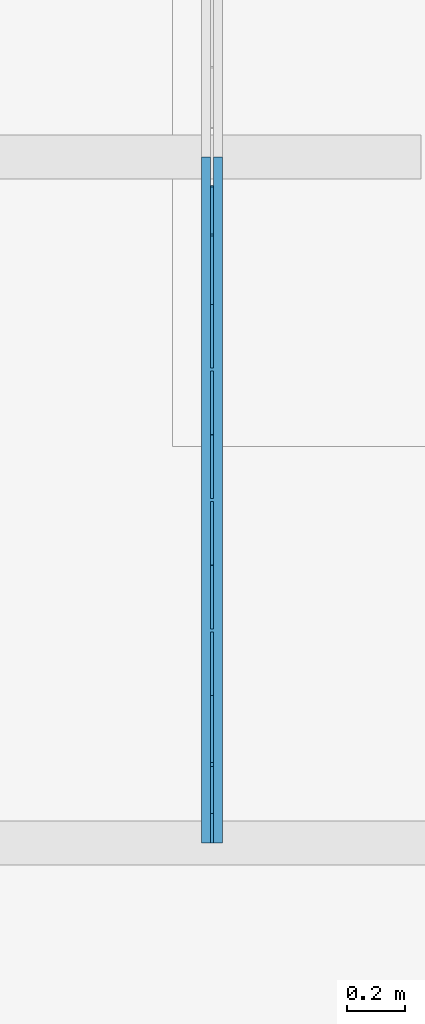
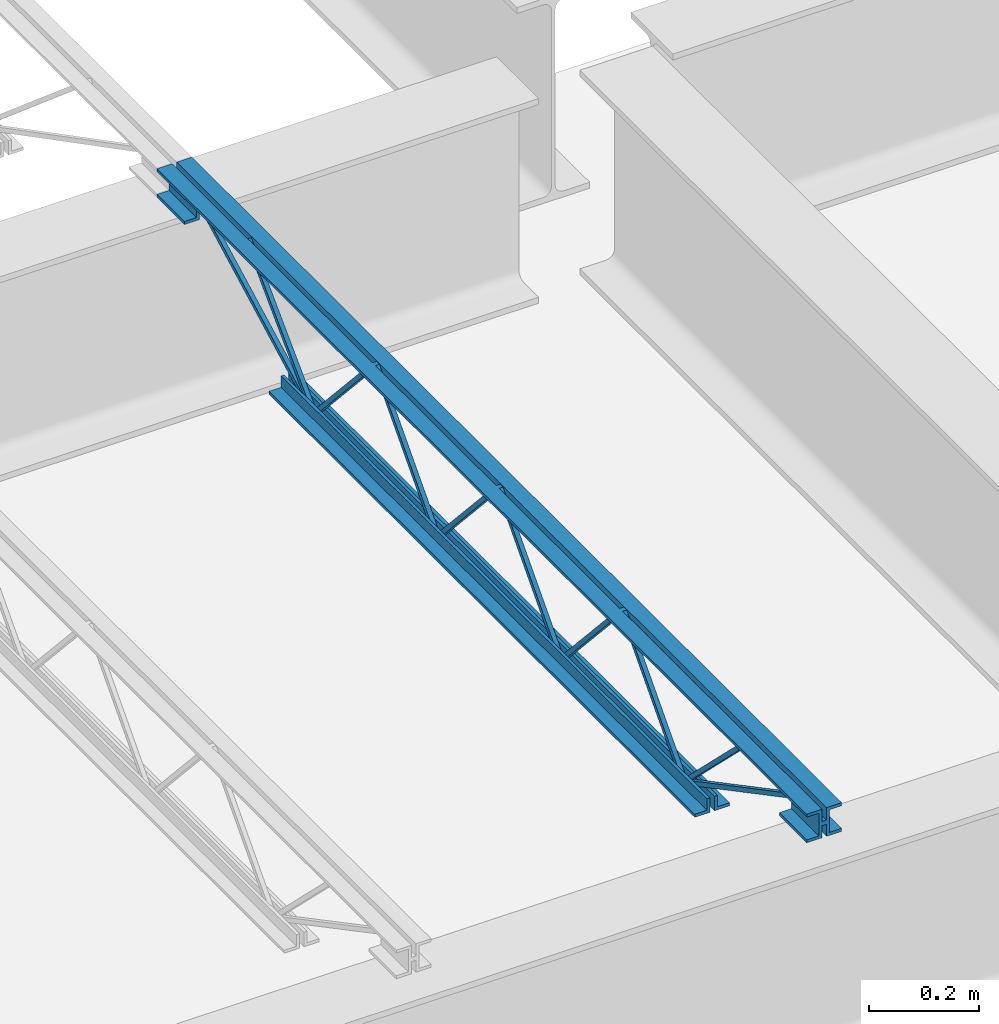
# One storey, part 59 of 75: 1 beam.
"""IFC2X3 building model written with IfcOpenShell, lengths in metres."""

from ifc_helpers import new_model, entity, si_unit, converted_unit, frame, origin, place, context, project, spatial, face_set, surface_model, element, save


model = new_model("IFC2X3")

# Units and contexts
model_context = context("Model", 3, precision=1e-09, world=origin())
plan_context = context("Plan", 3, precision=1e-09, world=origin())
ifc_project = project(units=[si_unit("LENGTHUNIT", "METRE"), si_unit("AREAUNIT", "SQUARE_METRE"), si_unit("VOLUMEUNIT", "CUBIC_METRE"), converted_unit("PLANEANGLEUNIT", "DEGREE", entity("IfcRatioMeasure", 0.01745329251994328), si_unit("PLANEANGLEUNIT", "RADIAN"), dimensions=[0, 0, 0, 0, 0, 0, 0]), si_unit("TIMEUNIT", "SECOND")], contexts=[model_context, plan_context])

# Site, building, storey
site_placement = place(None, origin())
site = spatial("IfcSite", under=ifc_project, at=site_placement, Name="Default", CompositionType="ELEMENT")
building_placement = place(site_placement, origin())
building = spatial("IfcBuilding", under=site, at=building_placement, CompositionType="ELEMENT")
storey_placement = place(building_placement, origin())
storey = spatial("IfcBuildingStorey", under=building, at=storey_placement, Name="First Floor", CompositionType="ELEMENT", Elevation=-3.531500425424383e-13)

# Beam
beam_placement = place(storey_placement, frame((-15.78006250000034, 42.41251390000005, 4.214000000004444)))
element("IfcBeam", 1, at=beam_placement, inside=storey, Name="M_K-Series Bar Joist-Rod Web:10K1:10K1", ObjectType="M_K-Series Bar Joist-Rod Web:10K1", context=model_context, shape_type="SurfaceModel", body=[
    surface_model("IfcFaceBasedSurfaceModel", [(0.04149999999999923, 0.9583333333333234, 0.01110000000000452), (0.03200000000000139, 0.9583333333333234, 0.01110000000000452), (0.03200000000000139, 0.9583333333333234, 0.001600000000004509), (0.04149999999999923, 0.9583333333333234, 0.001600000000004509), (0.03199999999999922, 0.9594035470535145, 0.01110000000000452), (0.04149999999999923, 0.9594035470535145, 0.01110000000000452), (0.03200000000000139, 0.9636131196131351, 0.001600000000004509), (0.03200000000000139, 1.182429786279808, 0.2429000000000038), (0.03200000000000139, 1.184570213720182, 0.2429000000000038), (0.03200000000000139, 1.403386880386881, 0.001600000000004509), (0.03200000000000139, 1.408666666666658, 0.001600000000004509), (0.03200000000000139, 1.408666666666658, 0.01110000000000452), (0.03200000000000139, 1.40759645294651, 0.01110000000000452), (0.03200000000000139, 1.188779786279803, 0.2524000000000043), (0.03200000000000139, 1.178220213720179, 0.2524000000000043), (0.0415000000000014, 0.9636131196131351, 0.001600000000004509), (0.04149999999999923, 1.1824297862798, 0.2429000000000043), (0.04149999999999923, 1.184570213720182, 0.2429000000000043), (0.04149999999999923, 1.403386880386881, 0.001600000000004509), (0.04149999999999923, 1.408666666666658, 0.001600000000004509), (0.04149999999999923, 1.408666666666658, 0.01110000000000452), (0.04149999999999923, 1.40759645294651, 0.01110000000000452), (0.04149999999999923, 1.188779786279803, 0.2524000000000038), (0.04149999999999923, 1.178220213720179, 0.2524000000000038), (0.04149999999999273, 1.40866666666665, 0.0110999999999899), (0.03199999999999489, 1.40866666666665, 0.0110999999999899), (0.03199999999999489, 1.40866666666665, 0.001599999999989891), (0.04149999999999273, 1.40866666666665, 0.001599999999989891), (0.03199999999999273, 1.409736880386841, 0.0110999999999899), (0.04149999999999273, 1.409736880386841, 0.0110999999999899), (0.03199999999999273, 1.413946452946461, 0.001599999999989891), (0.03199999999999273, 1.632763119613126, 0.2428999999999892), (0.03199999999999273, 1.6349035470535, 0.2428999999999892), (0.03199999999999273, 1.853720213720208, 0.001599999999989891), (0.03199999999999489, 1.858999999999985, 0.001599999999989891), (0.03199999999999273, 1.858999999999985, 0.0110999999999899), (0.03199999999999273, 1.857929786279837, 0.0110999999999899), (0.03199999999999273, 1.639113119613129, 0.2523999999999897), (0.03199999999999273, 1.628553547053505, 0.2523999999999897), (0.04149999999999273, 1.413946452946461, 0.001599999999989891), (0.04149999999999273, 1.632763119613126, 0.2428999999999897), (0.04149999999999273, 1.634903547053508, 0.2428999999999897), (0.04149999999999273, 1.853720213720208, 0.001599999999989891), (0.04149999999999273, 1.858999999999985, 0.001599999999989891), (0.04149999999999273, 1.858999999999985, 0.0110999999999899), (0.04149999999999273, 1.857929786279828, 0.0110999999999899), (0.04149999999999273, 1.639113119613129, 0.2523999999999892), (0.04149999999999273, 1.628553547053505, 0.2523999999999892), (0.04149999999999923, 0.5080000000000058, 0.01110000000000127), (0.03200000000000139, 0.5080000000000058, 0.01110000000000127), (0.03200000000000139, 0.5080000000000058, 0.001600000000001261), (0.04149999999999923, 0.5080000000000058, 0.001600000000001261), (0.03199999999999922, 0.5090702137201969, 0.01110000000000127), (0.04149999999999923, 0.5090702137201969, 0.01110000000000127), (0.03200000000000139, 0.5132797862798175, 0.001600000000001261), (0.03200000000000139, 0.7320964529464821, 0.2429000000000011), (0.03200000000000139, 0.7342368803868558, 0.2429000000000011), (0.03200000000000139, 0.9530535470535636, 0.001600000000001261), (0.03200000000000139, 0.9583333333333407, 0.001600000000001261), (0.03200000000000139, 0.9583333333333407, 0.01110000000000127), (0.03200000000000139, 0.9572631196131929, 0.01110000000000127), (0.03200000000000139, 0.738446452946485, 0.2524000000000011), (0.03200000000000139, 0.7278868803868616, 0.2524000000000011), (0.0415000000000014, 0.5132797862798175, 0.001600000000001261), (0.04149999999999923, 0.7320964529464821, 0.2429000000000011), (0.04149999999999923, 0.7342368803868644, 0.2429000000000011), (0.04149999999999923, 0.9530535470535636, 0.001600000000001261), (0.04149999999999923, 0.9583333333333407, 0.001600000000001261), (0.04149999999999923, 0.9583333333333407, 0.01110000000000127), (0.04149999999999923, 0.9572631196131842, 0.01110000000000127), (0.04149999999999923, 0.738446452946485, 0.2524000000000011), (0.04149999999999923, 0.7278868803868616, 0.2524000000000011), (0.03199999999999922, 2.366999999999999, 0.2539999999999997), (0.0, 2.366999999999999, 0.2539999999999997), (0.0, 2.366999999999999, 0.2474999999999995), (0.02549999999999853, 2.366999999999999, 0.2474999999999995), (0.02549999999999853, 2.366999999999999, 0.2219999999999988), (0.03199999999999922, 2.366999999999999, 0.2219999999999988), (0.04149999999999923, 2.366999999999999, 0.2539999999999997), (0.04149999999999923, 2.366999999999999, 0.2219999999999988), (0.04799999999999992, 2.366999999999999, 0.2219999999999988), (0.04799999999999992, 2.366999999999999, 0.2474999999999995), (0.07349999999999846, 2.366999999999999, 0.2474999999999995), (0.07349999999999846, 2.366999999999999, 0.2539999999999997), (0.03199999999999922, 0.0, 0.2539999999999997), (0.0, 0.0, 0.2539999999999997), (0.0, 0.0, 0.2474999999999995), (0.02549999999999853, 0.0, 0.2474999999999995), (0.02549999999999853, 0.0, 0.2219999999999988), (0.03199999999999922, 0.0, 0.2219999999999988), (0.04149999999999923, 0.0, 0.2539999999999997), (0.04149999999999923, 0.0, 0.2219999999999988), (0.04799999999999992, 0.0, 0.2219999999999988), (0.04799999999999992, 0.0, 0.2474999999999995), (0.07349999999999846, 0.0, 0.2474999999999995), (0.07349999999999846, 0.0, 0.2539999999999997), (0.04149999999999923, 0.09999999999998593, 0.1904999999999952), (0.07349999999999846, 0.09999999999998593, 0.1904999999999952), (0.07349999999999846, 0.09999999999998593, 0.1969999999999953), (0.04799999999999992, 0.09999999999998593, 0.1969999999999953), (0.04799999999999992, 0.09999999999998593, 0.2219999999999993), (0.04149999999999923, 0.09999999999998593, 0.2219999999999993), (0.0, 0.09999999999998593, 0.1904999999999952), (0.03199999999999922, 0.09999999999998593, 0.1904999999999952), (0.03199999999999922, 0.09999999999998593, 0.2219999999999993), (0.02549999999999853, 0.09999999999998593, 0.2219999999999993), (0.02549999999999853, 0.09999999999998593, 0.1969999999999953), (0.0, 0.09999999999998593, 0.1969999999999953), (0.04149999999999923, 0.0, 0.1904999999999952), (0.07349999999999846, 0.0, 0.1904999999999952), (0.07349999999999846, 0.0, 0.1969999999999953), (0.04799999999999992, 0.0, 0.1969999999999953), (0.04799999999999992, 0.0, 0.2219999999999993), (0.04149999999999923, 0.0, 0.2219999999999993), (0.0, 0.0, 0.1904999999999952), (0.03199999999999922, 0.0, 0.1904999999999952), (0.03199999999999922, 0.0, 0.2219999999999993), (0.02549999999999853, 0.0, 0.2219999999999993), (0.02549999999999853, 0.0, 0.1969999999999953), (0.0, 0.0, 0.1969999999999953), (0.03199999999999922, 2.366999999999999, 0.1904999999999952), (0.03199999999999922, 2.366999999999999, 0.2219999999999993), (0.0255000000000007, 2.366999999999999, 0.2219999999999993), (0.0255000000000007, 2.366999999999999, 0.1969999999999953), (0.0, 2.366999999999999, 0.1969999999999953), (0.0, 2.366999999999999, 0.1904999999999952), (0.04149999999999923, 2.366999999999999, 0.1904999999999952), (0.07350000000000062, 2.366999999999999, 0.1904999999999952), (0.07350000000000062, 2.366999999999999, 0.1969999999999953), (0.04799999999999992, 2.366999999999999, 0.1969999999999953), (0.04799999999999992, 2.366999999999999, 0.2219999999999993), (0.04149999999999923, 2.366999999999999, 0.2219999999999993), (0.03199999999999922, 2.266999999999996, 0.1904999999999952), (0.03199999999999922, 2.266999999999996, 0.2219999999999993), (0.0255000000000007, 2.266999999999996, 0.2219999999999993), (0.0255000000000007, 2.266999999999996, 0.1969999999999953), (0.0, 2.266999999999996, 0.1969999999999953), (0.0, 2.266999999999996, 0.1904999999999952), (0.04149999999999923, 2.266999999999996, 0.1904999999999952), (0.07350000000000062, 2.266999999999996, 0.1904999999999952), (0.07350000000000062, 2.266999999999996, 0.1969999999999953), (0.04799999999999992, 2.266999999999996, 0.1969999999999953), (0.04799999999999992, 2.266999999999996, 0.2219999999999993), (0.04149999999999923, 2.266999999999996, 0.2219999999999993), (0.03199999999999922, 1.959000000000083, 0.0), (0.03199999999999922, 1.959000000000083, 0.03199999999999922), (0.02549999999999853, 1.959000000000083, 0.03199999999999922), (0.02549999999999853, 1.959000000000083, 0.006500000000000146), (0.0, 1.959000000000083, 0.006500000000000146), (0.0, 1.959000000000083, 0.0), (0.04149999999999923, 1.959000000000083, 0.0), (0.07349999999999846, 1.959000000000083, 0.0), (0.07349999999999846, 1.959000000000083, 0.006500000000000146), (0.04799999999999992, 1.959000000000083, 0.006500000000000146), (0.04799999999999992, 1.959000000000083, 0.03199999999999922), (0.04149999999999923, 1.959000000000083, 0.03199999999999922), (0.03199999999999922, 0.4080000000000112, 0.0), (0.03199999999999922, 0.4080000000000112, 0.03199999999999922), (0.02549999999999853, 0.4080000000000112, 0.03199999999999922), (0.02549999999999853, 0.4080000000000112, 0.006500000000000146), (0.0, 0.4080000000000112, 0.006500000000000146), (0.0, 0.4080000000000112, 0.0), (0.04149999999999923, 0.4080000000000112, 0.0), (0.07349999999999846, 0.4080000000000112, 0.0), (0.07349999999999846, 0.4080000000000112, 0.006500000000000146), (0.04799999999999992, 0.4080000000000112, 0.006500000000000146), (0.04799999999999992, 0.4080000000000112, 0.03199999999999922), (0.04149999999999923, 0.4080000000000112, 0.03199999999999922), (0.04149999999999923, 0.5102196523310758, 0.01054948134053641), (0.03200000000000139, 0.5102196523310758, 0.01054948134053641), (0.03200000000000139, 0.5057803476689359, 0.002150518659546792), (0.04149999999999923, 0.5057803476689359, 0.002150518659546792), (0.04149999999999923, 0.1011780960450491, 0.2267499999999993), (0.04149999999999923, 0.0, 0.2267499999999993), (0.0415000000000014, 0.0, 0.2172499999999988), (0.04149999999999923, 0.09882190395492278, 0.2172499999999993), (0.03199999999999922, 0.09882190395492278, 0.2172499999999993), (0.03200000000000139, 0.1011780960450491, 0.2267499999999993), (0.03200000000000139, 0.0, 0.2267499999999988), (0.03200000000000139, 0.0, 0.2172499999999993), (0.04149999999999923, 0.2628761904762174, 0.2397000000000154), (0.03200000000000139, 0.2628761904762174, 0.2397000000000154), (0.03200000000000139, 0.2628761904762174, 0.2302000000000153), (0.04149999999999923, 0.2628761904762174, 0.2302000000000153), (0.03199999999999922, 0.2775206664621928, 0.2397000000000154), (0.04149999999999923, 0.2775206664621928, 0.2397000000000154), (0.03200000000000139, 0.2736317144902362, 0.2302000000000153), (0.03200000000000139, 0.5046692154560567, 0.002963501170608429), (0.03200000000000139, 0.5113307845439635, 0.00973649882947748), (0.0415000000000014, 0.2736317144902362, 0.2302000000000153), (0.04149999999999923, 0.5046692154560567, 0.002963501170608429), (0.04149999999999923, 0.5113307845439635, 0.00973649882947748), (0.04149999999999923, 2.269219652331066, 0.2178005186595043), (0.04149999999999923, 2.264780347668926, 0.2261994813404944), (0.03200000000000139, 2.264780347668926, 0.2261994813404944), (0.03200000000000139, 2.269219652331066, 0.2178005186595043), (0.04149999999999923, 1.861219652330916, 0.002150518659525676), (0.04149999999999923, 1.856780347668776, 0.01054948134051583), (0.03200000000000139, 1.856780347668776, 0.01054948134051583), (0.03200000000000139, 1.861219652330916, 0.002150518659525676), (0.04149999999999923, 2.102050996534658, 0.2443025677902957), (0.04149999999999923, 2.095310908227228, 0.2509974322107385), (0.03200000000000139, 2.095310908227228, 0.2509974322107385), (0.03200000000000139, 2.102050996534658, 0.2443025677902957), (0.04149999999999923, 1.862370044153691, 0.0030025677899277), (0.04149999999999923, 1.855629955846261, 0.009697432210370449), (0.03200000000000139, 1.855629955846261, 0.009697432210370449), (0.03200000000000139, 1.862370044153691, 0.0030025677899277)], [face_set([[[0, 1, 2, 3]], [[1, 4, 5, 0]], [[2, 6, 7, 8, 9, 10, 11, 12, 13, 14, 4, 1]], [[3, 2, 6, 15]], [[0, 3, 15, 16, 17, 18, 19, 20, 21, 22, 23, 5]], [[4, 5, 23, 14]], [[15, 16, 7, 6]], [[14, 13, 22, 23]], [[16, 7, 8, 17]], [[13, 12, 21, 22]], [[17, 8, 9, 18]], [[20, 11, 10, 19]], [[12, 11, 20, 21]], [[18, 9, 10, 19]]]), face_set([[[24, 25, 26, 27]], [[25, 28, 29, 24]], [[26, 30, 31, 32, 33, 34, 35, 36, 37, 38, 28, 25]], [[27, 26, 30, 39]], [[24, 27, 39, 40, 41, 42, 43, 44, 45, 46, 47, 29]], [[28, 29, 47, 38]], [[39, 40, 31, 30]], [[38, 37, 46, 47]], [[40, 31, 32, 41]], [[37, 36, 45, 46]], [[41, 32, 33, 42]], [[44, 35, 34, 43]], [[36, 35, 44, 45]], [[42, 33, 34, 43]]]), face_set([[[48, 49, 50, 51]], [[49, 52, 53, 48]], [[50, 54, 55, 56, 57, 58, 59, 60, 61, 62, 52, 49]], [[51, 50, 54, 63]], [[48, 51, 63, 64, 65, 66, 67, 68, 69, 70, 71, 53]], [[52, 53, 71, 62]], [[63, 64, 55, 54]], [[62, 61, 70, 71]], [[64, 55, 56, 65]], [[61, 60, 69, 70]], [[65, 56, 57, 66]], [[68, 59, 58, 67]], [[60, 59, 68, 69]], [[66, 57, 58, 67]]]), face_set([[[72, 73, 74, 75, 76, 77]], [[78, 79, 80, 81, 82, 83]], [[84, 85, 86, 87, 88, 89]], [[90, 91, 92, 93, 94, 95]], [[77, 72, 84, 89]], [[76, 77, 89, 88]], [[75, 87, 88, 76]], [[74, 75, 87, 86]], [[73, 85, 86, 74]], [[72, 84, 85, 73]], [[83, 95, 90, 78]], [[82, 83, 95, 94]], [[81, 82, 94, 93]], [[80, 81, 93, 92]], [[79, 80, 92, 91]], [[78, 90, 91, 79]]]), face_set([[[96, 97, 98, 99, 100, 101]], [[102, 103, 104, 105, 106, 107]], [[108, 109, 110, 111, 112, 113]], [[114, 115, 116, 117, 118, 119]], [[101, 113, 108, 96]], [[100, 112, 113, 101]], [[99, 100, 112, 111]], [[98, 110, 111, 99]], [[97, 98, 110, 109]], [[96, 97, 109, 108]], [[107, 119, 114, 102]], [[106, 118, 119, 107]], [[105, 117, 118, 106]], [[104, 116, 117, 105]], [[103, 104, 116, 115]], [[102, 103, 115, 114]]]), face_set([[[120, 121, 122, 123, 124, 125]], [[126, 127, 128, 129, 130, 131]], [[132, 133, 134, 135, 136, 137]], [[138, 139, 140, 141, 142, 143]], [[125, 120, 132, 137]], [[124, 136, 137, 125]], [[123, 135, 136, 124]], [[122, 134, 135, 123]], [[121, 133, 134, 122]], [[120, 121, 133, 132]], [[131, 143, 138, 126]], [[130, 142, 143, 131]], [[129, 130, 142, 141]], [[128, 140, 141, 129]], [[127, 128, 140, 139]], [[126, 127, 139, 138]]]), face_set([[[144, 145, 146, 147, 148, 149]], [[150, 151, 152, 153, 154, 155]], [[156, 157, 158, 159, 160, 161]], [[162, 163, 164, 165, 166, 167]], [[149, 144, 156, 161]], [[148, 160, 161, 149]], [[147, 159, 160, 148]], [[146, 158, 159, 147]], [[145, 157, 158, 146]], [[144, 145, 157, 156]], [[155, 167, 162, 150]], [[154, 166, 167, 155]], [[153, 154, 166, 165]], [[152, 164, 165, 153]], [[151, 152, 164, 163]], [[150, 151, 163, 162]]]), face_set([[[168, 169, 170, 171]], [[171, 168, 172, 173, 174, 175]], [[170, 171, 175, 176]], [[169, 177, 178, 179, 176, 170]], [[168, 172, 177, 169]], [[173, 178, 179, 174]], [[176, 175, 174, 179]], [[172, 173, 178, 177]]]), face_set([[[180, 181, 182, 183]], [[181, 184, 185, 180]], [[182, 186, 187, 188, 184, 181]], [[183, 182, 186, 189]], [[180, 183, 189, 190, 191, 185]], [[191, 188, 187, 190]], [[184, 188, 191, 185]], [[189, 186, 187, 190]]]), face_set([[[192, 193, 194, 195]], [[196, 197, 198, 199]], [[195, 199, 196, 192]], [[194, 198, 199, 195]], [[193, 194, 198, 197]], [[192, 193, 197, 196]]]), face_set([[[200, 201, 202, 203]], [[204, 205, 206, 207]], [[203, 207, 204, 200]], [[202, 206, 207, 203]], [[201, 202, 206, 205]], [[200, 201, 205, 204]]])]),
])

save(model, "model.ifc")
